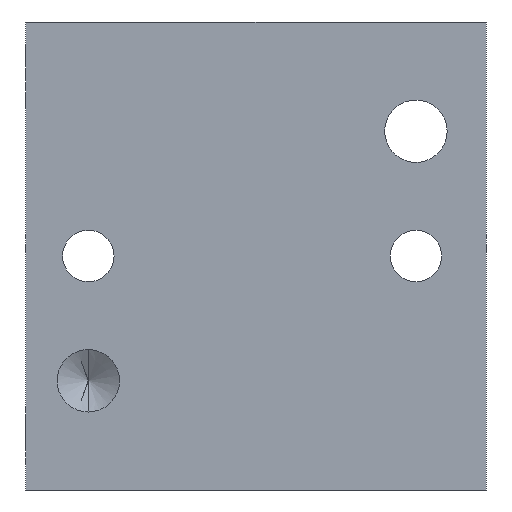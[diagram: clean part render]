
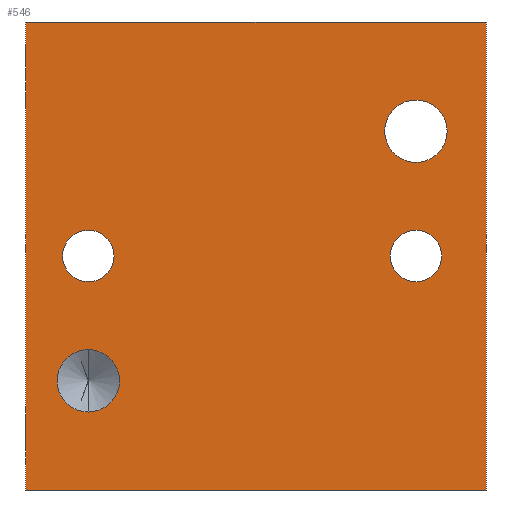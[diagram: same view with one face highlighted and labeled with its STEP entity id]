
A CAD part, front view. The second image highlights one B-rep face of the part: STEP entity #546.
In plain terms, the highlighted planar face has unit normal (0, -1, 0).
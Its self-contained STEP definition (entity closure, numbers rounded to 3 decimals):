
#7 = VERTEX_POINT ( 'NONE', #1075 ) ;
#9 = VERTEX_POINT ( 'NONE', #1078 ) ;
#12 = VERTEX_POINT ( 'NONE', #1077 ) ;
#13 = VERTEX_POINT ( 'NONE', #1069 ) ;
#27 = EDGE_CURVE ( 'NONE', #1079, #9, #326, .T. ) ;
#43 = AXIS2_PLACEMENT_3D ( 'NONE', #1020, #1013, #1019 ) ;
#84 = VERTEX_POINT ( 'NONE', #721 ) ;
#85 = VERTEX_POINT ( 'NONE', #722 ) ;
#88 = VERTEX_POINT ( 'NONE', #725 ) ;
#91 = VERTEX_POINT ( 'NONE', #728 ) ;
#93 = VERTEX_POINT ( 'NONE', #730 ) ;
#104 = EDGE_LOOP ( 'NONE', ( #188, #180 ) ) ;
#121 = ORIENTED_EDGE ( 'NONE', *, *, #996, .F. ) ;
#175 = ORIENTED_EDGE ( 'NONE', *, *, #27, .F. ) ;
#180 = ORIENTED_EDGE ( 'NONE', *, *, #954, .F. ) ;
#188 = ORIENTED_EDGE ( 'NONE', *, *, #997, .F. ) ;
#189 = ORIENTED_EDGE ( 'NONE', *, *, #1001, .F. ) ;
#193 = ORIENTED_EDGE ( 'NONE', *, *, #964, .T. ) ;
#196 = ORIENTED_EDGE ( 'NONE', *, *, #998, .T. ) ;
#197 = ORIENTED_EDGE ( 'NONE', *, *, #993, .T. ) ;
#200 = ORIENTED_EDGE ( 'NONE', *, *, #999, .T. ) ;
#203 = ORIENTED_EDGE ( 'NONE', *, *, #956, .T. ) ;
#207 = ORIENTED_EDGE ( 'NONE', *, *, #1002, .F. ) ;
#260 = ORIENTED_EDGE ( 'NONE', *, *, #1000, .T. ) ;
#267 = EDGE_LOOP ( 'NONE', ( #260, #189, #207, #197 ) ) ;
#283 = EDGE_LOOP ( 'NONE', ( #200, #193 ) ) ;
#294 = EDGE_LOOP ( 'NONE', ( #121, #175 ) ) ;
#302 = EDGE_LOOP ( 'NONE', ( #196, #203 ) ) ;
#326 = CIRCLE ( 'NONE', #43, 4. ) ;
#371 = DIRECTION ( 'NONE',  ( 0., 0., -1. ) ) ;
#374 = CARTESIAN_POINT ( 'NONE',  ( -21.5, -29., 14. ) ) ;
#375 = DIRECTION ( 'NONE',  ( 0., -1., 0. ) ) ;
#376 = DIRECTION ( 'NONE',  ( 0., 0., -1. ) ) ;
#377 = CARTESIAN_POINT ( 'NONE',  ( 20.5, -29., 46. ) ) ;
#378 = DIRECTION ( 'NONE',  ( 0., -1., 0. ) ) ;
#379 = DIRECTION ( 'NONE',  ( 0., 0., -1. ) ) ;
#380 = CARTESIAN_POINT ( 'NONE',  ( -29.5, -29., 0. ) ) ;
#381 = DIRECTION ( 'NONE',  ( 1., 0., 0. ) ) ;
#382 = CARTESIAN_POINT ( 'NONE',  ( 20.5, -29., 30. ) ) ;
#383 = DIRECTION ( 'NONE',  ( 0., 1., 0. ) ) ;
#384 = DIRECTION ( 'NONE',  ( 0., 0., 1. ) ) ;
#386 = CARTESIAN_POINT ( 'NONE',  ( -29.5, -29., 60. ) ) ;
#387 = CARTESIAN_POINT ( 'NONE',  ( -21.5, -29., 30. ) ) ;
#388 = DIRECTION ( 'NONE',  ( 0., 1., 0. ) ) ;
#389 = DIRECTION ( 'NONE',  ( 0., 0., 1. ) ) ;
#390 = CARTESIAN_POINT ( 'NONE',  ( 29.5, -29., 60. ) ) ;
#392 = DIRECTION ( 'NONE',  ( 0., 0., -1. ) ) ;
#393 = DIRECTION ( 'NONE',  ( 1., 0., 0. ) ) ;
#408 = CARTESIAN_POINT ( 'NONE',  ( -21.5, -29., 18. ) ) ;
#449 = AXIS2_PLACEMENT_3D ( 'NONE', #857, #858, #859 ) ;
#450 = AXIS2_PLACEMENT_3D ( 'NONE', #850, #849, #854 ) ;
#451 = AXIS2_PLACEMENT_3D ( 'NONE', #863, #864, #865 ) ;
#455 = AXIS2_PLACEMENT_3D ( 'NONE', #883, #884, #885 ) ;
#471 = AXIS2_PLACEMENT_3D ( 'NONE', #374, #375, #376 ) ;
#472 = AXIS2_PLACEMENT_3D ( 'NONE', #377, #378, #379 ) ;
#473 = AXIS2_PLACEMENT_3D ( 'NONE', #382, #383, #384 ) ;
#474 = AXIS2_PLACEMENT_3D ( 'NONE', #387, #388, #389 ) ;
#499 = VERTEX_POINT ( 'NONE', #739 ) ;
#513 = VERTEX_POINT ( 'NONE', #748 ) ;
#546 = ADVANCED_FACE ( 'NONE', ( #582, #587, #576, #586, #584 ), #853, .F. ) ;
#576 = FACE_BOUND ( 'NONE', #302, .T. ) ;
#582 = FACE_BOUND ( 'NONE', #294, .T. ) ;
#584 = FACE_OUTER_BOUND ( 'NONE', #267, .T. ) ;
#586 = FACE_BOUND ( 'NONE', #283, .T. ) ;
#587 = FACE_BOUND ( 'NONE', #104, .T. ) ;
#588 = CIRCLE ( 'NONE', #451, 3.3 ) ;
#590 = CIRCLE ( 'NONE', #449, 4. ) ;
#603 = CIRCLE ( 'NONE', #455, 3.3 ) ;
#639 = LINE ( 'NONE', #952, #648 ) ;
#648 = VECTOR ( 'NONE', #371, 1000. ) ;
#649 = LINE ( 'NONE', #386, #662 ) ;
#651 = CIRCLE ( 'NONE', #471, 4. ) ;
#653 = CIRCLE ( 'NONE', #472, 4. ) ;
#654 = CIRCLE ( 'NONE', #473, 3.3 ) ;
#655 = CIRCLE ( 'NONE', #474, 3.3 ) ;
#656 = LINE ( 'NONE', #380, #658 ) ;
#657 = LINE ( 'NONE', #390, #660 ) ;
#658 = VECTOR ( 'NONE', #381, 1000. ) ;
#660 = VECTOR ( 'NONE', #392, 1000. ) ;
#662 = VECTOR ( 'NONE', #393, 1000. ) ;
#721 = CARTESIAN_POINT ( 'NONE',  ( 20.5, -29., 42. ) ) ;
#722 = CARTESIAN_POINT ( 'NONE',  ( -21.5, -29., 26.7 ) ) ;
#725 = CARTESIAN_POINT ( 'NONE',  ( -21.5, -29., 33.3 ) ) ;
#728 = CARTESIAN_POINT ( 'NONE',  ( 29.5, -29., 60. ) ) ;
#730 = CARTESIAN_POINT ( 'NONE',  ( 29.5, -29., 0. ) ) ;
#739 = CARTESIAN_POINT ( 'NONE',  ( -29.5, -29., 0. ) ) ;
#748 = CARTESIAN_POINT ( 'NONE',  ( 20.5, -29., 50. ) ) ;
#849 = DIRECTION ( 'NONE',  ( 0., 1., 0. ) ) ;
#850 = CARTESIAN_POINT ( 'NONE',  ( -29.5, -29., 60. ) ) ;
#853 = PLANE ( 'NONE',  #450 ) ;
#854 = DIRECTION ( 'NONE',  ( 0., 0., 1. ) ) ;
#857 = CARTESIAN_POINT ( 'NONE',  ( 20.5, -29., 46. ) ) ;
#858 = DIRECTION ( 'NONE',  ( 0., -1., 0. ) ) ;
#859 = DIRECTION ( 'NONE',  ( 0., 0., -1. ) ) ;
#863 = CARTESIAN_POINT ( 'NONE',  ( 20.5, -29., 30. ) ) ;
#864 = DIRECTION ( 'NONE',  ( 0., 1., 0. ) ) ;
#865 = DIRECTION ( 'NONE',  ( 0., 0., 1. ) ) ;
#883 = CARTESIAN_POINT ( 'NONE',  ( -21.5, -29., 30. ) ) ;
#884 = DIRECTION ( 'NONE',  ( 0., 1., 0. ) ) ;
#885 = DIRECTION ( 'NONE',  ( 0., 0., 1. ) ) ;
#952 = CARTESIAN_POINT ( 'NONE',  ( -29.5, -29., 60. ) ) ;
#954 = EDGE_CURVE ( 'NONE', #513, #84, #590, .T. ) ;
#956 = EDGE_CURVE ( 'NONE', #13, #7, #588, .T. ) ;
#964 = EDGE_CURVE ( 'NONE', #85, #88, #603, .T. ) ;
#993 = EDGE_CURVE ( 'NONE', #12, #499, #639, .T. ) ;
#996 = EDGE_CURVE ( 'NONE', #9, #1079, #651, .T. ) ;
#997 = EDGE_CURVE ( 'NONE', #84, #513, #653, .T. ) ;
#998 = EDGE_CURVE ( 'NONE', #7, #13, #654, .T. ) ;
#999 = EDGE_CURVE ( 'NONE', #88, #85, #655, .T. ) ;
#1000 = EDGE_CURVE ( 'NONE', #499, #93, #656, .T. ) ;
#1001 = EDGE_CURVE ( 'NONE', #91, #93, #657, .T. ) ;
#1002 = EDGE_CURVE ( 'NONE', #12, #91, #649, .T. ) ;
#1013 = DIRECTION ( 'NONE',  ( 0., -1., 0. ) ) ;
#1019 = DIRECTION ( 'NONE',  ( 0., 0., -1. ) ) ;
#1020 = CARTESIAN_POINT ( 'NONE',  ( -21.5, -29., 14. ) ) ;
#1069 = CARTESIAN_POINT ( 'NONE',  ( 20.5, -29., 26.7 ) ) ;
#1075 = CARTESIAN_POINT ( 'NONE',  ( 20.5, -29., 33.3 ) ) ;
#1077 = CARTESIAN_POINT ( 'NONE',  ( -29.5, -29., 60. ) ) ;
#1078 = CARTESIAN_POINT ( 'NONE',  ( -21.5, -29., 10. ) ) ;
#1079 = VERTEX_POINT ( 'NONE', #408 ) ;
